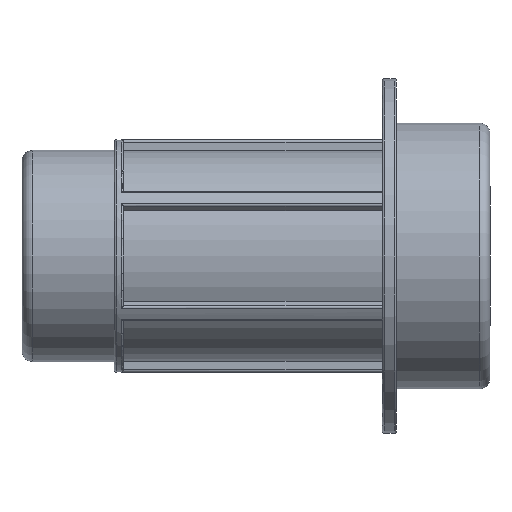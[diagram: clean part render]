
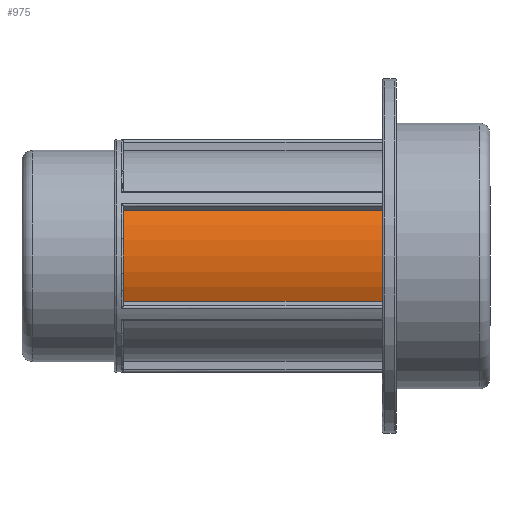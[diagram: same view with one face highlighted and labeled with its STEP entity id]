
A CAD part, front view. The second image highlights one B-rep face of the part: STEP entity #975.
In plain terms, the highlighted cylindrical face has radius 29.807 mm (diameter 59.614 mm), a partial arc.
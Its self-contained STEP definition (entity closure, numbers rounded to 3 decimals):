
#69=LINE('',#1607,#129);
#96=LINE('',#1844,#156);
#129=VECTOR('',#1234,73.04);
#156=VECTOR('',#1335,73.04);
#198=CYLINDRICAL_SURFACE('',#1081,29.807);
#261=FACE_OUTER_BOUND('',#326,.T.);
#326=EDGE_LOOP('',(#872,#873,#874,#875));
#363=CIRCLE('',#1010,29.807);
#396=CIRCLE('',#1082,29.807);
#425=VERTEX_POINT('',#1437);
#426=VERTEX_POINT('',#1439);
#466=VERTEX_POINT('',#1606);
#495=VERTEX_POINT('',#1842);
#523=EDGE_CURVE('',#425,#426,#363,.T.);
#577=EDGE_CURVE('',#466,#426,#69,.T.);
#630=EDGE_CURVE('',#425,#495,#96,.T.);
#633=EDGE_CURVE('',#495,#466,#396,.T.);
#872=ORIENTED_EDGE('',*,*,#577,.T.);
#873=ORIENTED_EDGE('',*,*,#523,.F.);
#874=ORIENTED_EDGE('',*,*,#630,.T.);
#875=ORIENTED_EDGE('',*,*,#633,.T.);
#975=ADVANCED_FACE('',(#261),#198,.T.);
#1010=AXIS2_PLACEMENT_3D('',#1440,#1148,#1149);
#1081=AXIS2_PLACEMENT_3D('',#1850,#1343,#1344);
#1082=AXIS2_PLACEMENT_3D('',#1851,#1345,#1346);
#1148=DIRECTION('center_axis',(1.,0.,0.));
#1149=DIRECTION('ref_axis',(0.,0.,-1.));
#1234=DIRECTION('',(1.,0.,0.));
#1335=DIRECTION('',(-1.,0.,0.));
#1343=DIRECTION('center_axis',(1.,0.,0.));
#1344=DIRECTION('ref_axis',(0.,1.,0.));
#1345=DIRECTION('center_axis',(1.,0.,0.));
#1346=DIRECTION('ref_axis',(0.,0.,-1.));
#1437=CARTESIAN_POINT('',(-30.36,-26.923,12.791));
#1439=CARTESIAN_POINT('',(-30.36,-26.923,-12.791));
#1440=CARTESIAN_POINT('Origin',(-30.36,0.,0.));
#1606=CARTESIAN_POINT('',(-103.4,-26.923,-12.791));
#1607=CARTESIAN_POINT('',(-66.88,-26.923,-12.791));
#1842=CARTESIAN_POINT('',(-103.4,-26.923,12.791));
#1844=CARTESIAN_POINT('',(-66.88,-26.923,12.791));
#1850=CARTESIAN_POINT('Origin',(-66.88,0.,0.));
#1851=CARTESIAN_POINT('Origin',(-103.4,0.,0.));
